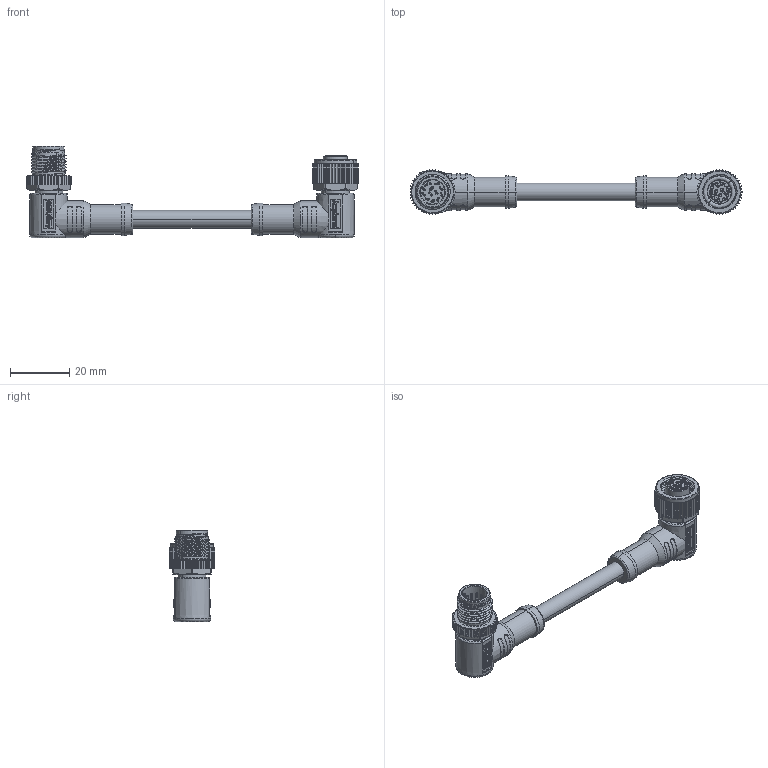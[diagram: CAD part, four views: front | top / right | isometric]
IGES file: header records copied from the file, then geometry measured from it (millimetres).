
Start section:  PTC IGES file: msap12mr-sapfr-sdxxx.igs
Global section: file name: msap12mr-sapfr-sdxxx.igs; native system: Creo Parametric by Parametric Technology Corporation; preprocessor: 2017170; author: L210039; organization: Unknown; date: 20211005.135147; units: millimetre
Bounding box: 112.5 x 15.3 x 31 mm (x, y, z)
Volume: 12106.1 mm3; surface area: 7949.5 mm2
Topology: 1 solids, 1 shells, 1891 faces, 4969 edges, 3182 vertices
Faces by surface type: bspline 1129, revolution 496, extrusion 266
